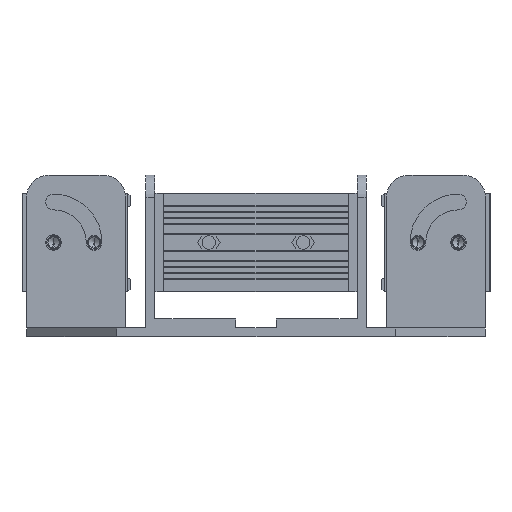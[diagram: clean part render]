
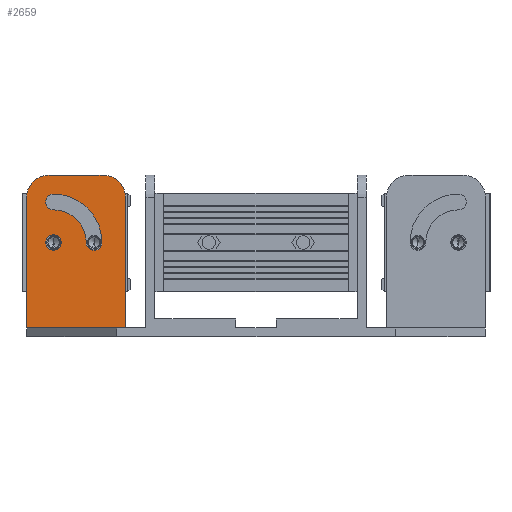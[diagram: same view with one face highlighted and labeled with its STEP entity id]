
A CAD part, front view. The second image highlights one B-rep face of the part: STEP entity #2659.
In plain terms, the highlighted planar face has unit normal (0, -1, 0).
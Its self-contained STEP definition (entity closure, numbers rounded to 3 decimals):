
#309=DIRECTION('',(1.,0.,0.));
#310=VECTOR('',#309,22.);
#311=CARTESIAN_POINT('',(-51.,-24.5,2.));
#312=LINE('',#311,#310);
#369=DIRECTION('',(0.,0.,-1.));
#370=VECTOR('',#369,29.);
#371=CARTESIAN_POINT('',(-29.,-24.5,31.));
#372=LINE('',#371,#370);
#373=CARTESIAN_POINT('',(-45.,-24.5,21.));
#374=DIRECTION('',(0.,1.,0.));
#375=DIRECTION('',(-1.,0.,0.));
#376=AXIS2_PLACEMENT_3D('',#373,#374,#375);
#378=CARTESIAN_POINT('',(-45.,-24.5,21.));
#379=DIRECTION('',(0.,1.,0.));
#380=DIRECTION('',(1.,0.,0.));
#381=AXIS2_PLACEMENT_3D('',#378,#379,#380);
#383=CARTESIAN_POINT('',(-45.,-24.5,21.));
#384=DIRECTION('',(0.,1.,0.));
#385=DIRECTION('',(0.,0.,1.));
#386=AXIS2_PLACEMENT_3D('',#383,#384,#385);
#388=CARTESIAN_POINT('',(-45.,-24.5,30.));
#389=DIRECTION('',(0.,1.,0.));
#390=DIRECTION('',(0.,0.,-1.));
#391=AXIS2_PLACEMENT_3D('',#388,#389,#390);
#393=CARTESIAN_POINT('',(-45.,-24.5,21.));
#394=DIRECTION('',(0.,1.,0.));
#395=DIRECTION('',(0.,0.,1.));
#396=AXIS2_PLACEMENT_3D('',#393,#394,#395);
#398=CARTESIAN_POINT('',(-36.,-24.5,21.));
#399=DIRECTION('',(0.,1.,0.));
#400=DIRECTION('',(1.,0.,0.));
#401=AXIS2_PLACEMENT_3D('',#398,#399,#400);
#403=CARTESIAN_POINT('',(-34.,-24.5,31.));
#404=DIRECTION('',(0.,-1.,0.));
#405=DIRECTION('',(1.,0.,0.));
#406=AXIS2_PLACEMENT_3D('',#403,#404,#405);
#408=CARTESIAN_POINT('',(-46.,-24.5,31.));
#409=DIRECTION('',(0.,-1.,0.));
#410=DIRECTION('',(0.,0.,1.));
#411=AXIS2_PLACEMENT_3D('',#408,#409,#410);
#413=DIRECTION('',(1.,0.,0.));
#414=VECTOR('',#413,12.);
#415=CARTESIAN_POINT('',(-46.,-24.5,36.));
#416=LINE('',#415,#414);
#613=DIRECTION('',(0.,0.,-1.));
#614=VECTOR('',#613,29.);
#615=CARTESIAN_POINT('',(-51.,-24.5,31.));
#616=LINE('',#615,#614);
#1977=CARTESIAN_POINT('',(-29.,-24.5,2.));
#1979=VERTEX_POINT('',#1977);
#1981=CARTESIAN_POINT('',(-51.,-24.5,2.));
#1982=VERTEX_POINT('',#1981);
#2105=CARTESIAN_POINT('',(-46.75,-24.5,21.));
#2106=CARTESIAN_POINT('',(-43.25,-24.5,21.));
#2107=VERTEX_POINT('',#2105);
#2108=VERTEX_POINT('',#2106);
#2109=CARTESIAN_POINT('',(-45.,-24.5,31.75));
#2110=CARTESIAN_POINT('',(-34.25,-24.5,21.));
#2111=VERTEX_POINT('',#2109);
#2112=VERTEX_POINT('',#2110);
#2113=CARTESIAN_POINT('',(-37.75,-24.5,21.));
#2114=VERTEX_POINT('',#2113);
#2115=CARTESIAN_POINT('',(-45.,-24.5,28.25));
#2116=VERTEX_POINT('',#2115);
#2129=CARTESIAN_POINT('',(-29.,-24.5,31.));
#2130=CARTESIAN_POINT('',(-34.,-24.5,36.));
#2131=VERTEX_POINT('',#2129);
#2132=VERTEX_POINT('',#2130);
#2141=CARTESIAN_POINT('',(-46.,-24.5,36.));
#2142=VERTEX_POINT('',#2141);
#2143=CARTESIAN_POINT('',(-51.,-24.5,31.));
#2144=VERTEX_POINT('',#2143);
#2627=CARTESIAN_POINT('',(-51.,-24.5,36.));
#2628=DIRECTION('',(0.,1.,0.));
#2629=DIRECTION('',(0.,0.,-1.));
#2630=AXIS2_PLACEMENT_3D('',#2627,#2628,#2629);
#2631=PLANE('',#2630);
#2632=ORIENTED_EDGE('',*,*,#2617,.F.);
#2633=ORIENTED_EDGE('',*,*,#2607,.T.);
#2634=ORIENTED_EDGE('',*,*,#2426,.F.);
#2636=ORIENTED_EDGE('',*,*,#2635,.F.);
#2638=ORIENTED_EDGE('',*,*,#2637,.F.);
#2640=ORIENTED_EDGE('',*,*,#2639,.T.);
#2641=EDGE_LOOP('',(#2632,#2633,#2634,#2636,#2638,#2640));
#2642=FACE_OUTER_BOUND('',#2641,.F.);
#2644=ORIENTED_EDGE('',*,*,#2643,.F.);
#2646=ORIENTED_EDGE('',*,*,#2645,.F.);
#2647=EDGE_LOOP('',(#2644,#2646));
#2648=FACE_BOUND('',#2647,.F.);
#2650=ORIENTED_EDGE('',*,*,#2649,.F.);
#2652=ORIENTED_EDGE('',*,*,#2651,.F.);
#2654=ORIENTED_EDGE('',*,*,#2653,.T.);
#2656=ORIENTED_EDGE('',*,*,#2655,.F.);
#2657=EDGE_LOOP('',(#2650,#2652,#2654,#2656));
#2658=FACE_BOUND('',#2657,.F.);
#377=CIRCLE('',#376,1.75);
#382=CIRCLE('',#381,1.75);
#387=CIRCLE('',#386,10.75);
#392=CIRCLE('',#391,1.75);
#397=CIRCLE('',#396,7.25);
#402=CIRCLE('',#401,1.75);
#407=CIRCLE('',#406,5.);
#412=CIRCLE('',#411,5.);
#2426=EDGE_CURVE('',#1982,#1979,#312,.T.);
#2607=EDGE_CURVE('',#2131,#1979,#372,.T.);
#2617=EDGE_CURVE('',#2131,#2132,#407,.T.);
#2635=EDGE_CURVE('',#2144,#1982,#616,.T.);
#2637=EDGE_CURVE('',#2142,#2144,#412,.T.);
#2639=EDGE_CURVE('',#2142,#2132,#416,.T.);
#2643=EDGE_CURVE('',#2107,#2108,#377,.T.);
#2645=EDGE_CURVE('',#2108,#2107,#382,.T.);
#2649=EDGE_CURVE('',#2111,#2112,#387,.T.);
#2651=EDGE_CURVE('',#2116,#2111,#392,.T.);
#2653=EDGE_CURVE('',#2116,#2114,#397,.T.);
#2655=EDGE_CURVE('',#2112,#2114,#402,.T.);
#2659=ADVANCED_FACE('',(#2642,#2648,#2658),#2631,.F.);
